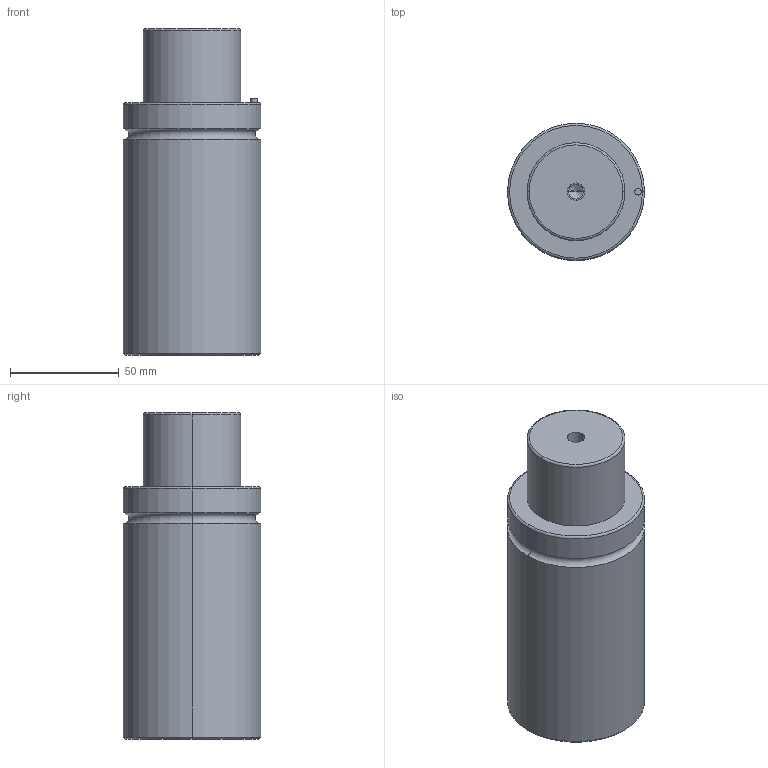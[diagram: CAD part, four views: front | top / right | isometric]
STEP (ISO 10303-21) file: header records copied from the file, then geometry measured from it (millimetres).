
FILE_DESCRIPTION(/* description */ (''),/* implementation_level */ '2;1');
FILE_NAME(/* name */ '3d_gsm63-32_03910_r00.stp',/* time_stamp */ '2011-01-10T14:15:14+09:00',/* author */ ('MISUMI'),/* organization */ (''),/* preprocessor_version */ 'ST-DEVELOPER v11',/* originating_system */ 'UGS - NX 5.0',/* authorisation */ '');
FILE_SCHEMA (('CONFIG_CONTROL_DESIGN'));
Length unit declared in the file: millimetre
Products named in the file (1): 3d_gsm63-32_03910_r00
Bounding box: 63 x 63 x 150 mm (x, y, z)
Volume: 410769.3 mm3; surface area: 35684.3 mm2
Topology: 1 solids, 1 shells, 48 faces, 102 edges, 58 vertices
Faces by surface type: cylinder 24, cone 10, plane 8, torus 6
Entity records: 1332 total; most frequent: DIRECTION 252, CARTESIAN_POINT 201, ORIENTED_EDGE 188, AXIS2_PLACEMENT_3D 109, EDGE_CURVE 94, CIRCLE 60, EDGE_LOOP 58, VERTEX_POINT 58
